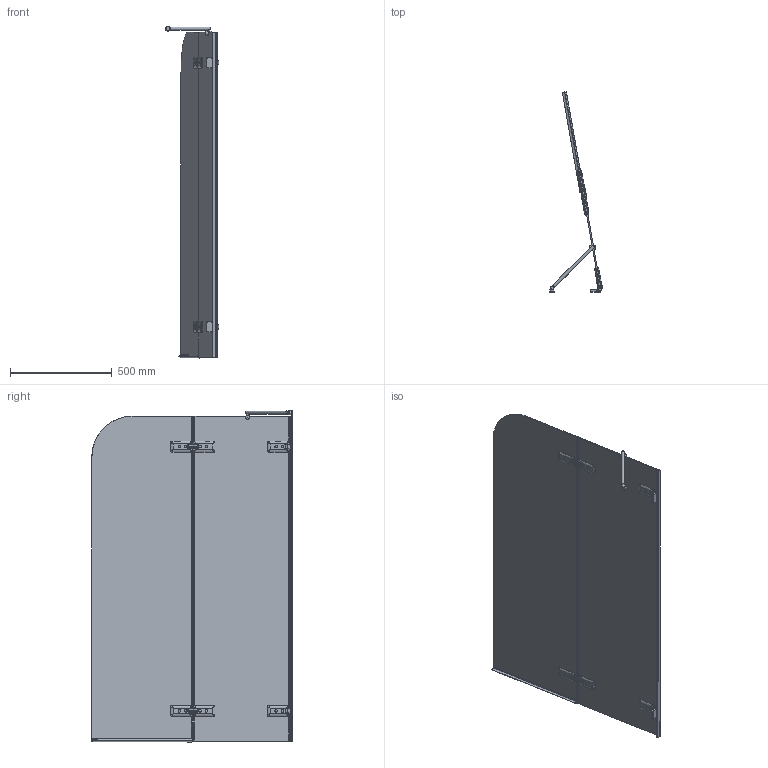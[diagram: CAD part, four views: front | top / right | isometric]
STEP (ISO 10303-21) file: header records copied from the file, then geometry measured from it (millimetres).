
FILE_DESCRIPTION(/* description */ (''),/* implementation_level */ '2;1');
FILE_NAME(/* name */ 'D:\4\TREND PEARL GV-862BN\TREND PEARL GV-862BN левая модель\TREND PEARL GV-862BN ЛЕВАЯ-3D.stp',/* time_stamp */ '2018-06-21T11:05:53+03:00',/* author */ ('ChechurovS'),/* organization */ (''),/* preprocessor_version */ 'ST-DEVELOPER v15.2',/* originating_system */ 'Autodesk Inventor 2014',/* authorisation */ '');
FILE_SCHEMA (('AUTOMOTIVE_DESIGN { 1 0 10303 214 3 1 1 }'));
Products named in the file (1): TREND PEARL GV-862BN ЛЕВАЯ-3D
Bounding box: 262.86 x 986.98 x 1633.89 mm (x, y, z)
Volume: 10276330.9 mm3; surface area: 3489990.6 mm2
Topology: 2 solids, 2 shells, 1234 faces, 3484 edges, 2222 vertices
Faces by surface type: plane 734, cylinder 333, bspline 120, cone 20, sphere 14, torus 13
Full cylindrical faces by diameter (mm): 6 x4, 9 x8, 12 x3, 13 x4, 15 x1, 20 x2, 26 x1
Entity records: 57189 total; most frequent: CARTESIAN_POINT 24424, ORIENTED_EDGE 6742, DIRECTION 6333, EDGE_CURVE 3371, VERTEX_POINT 2200, AXIS2_PLACEMENT_3D 2115, LINE 2103, VECTOR 2103
